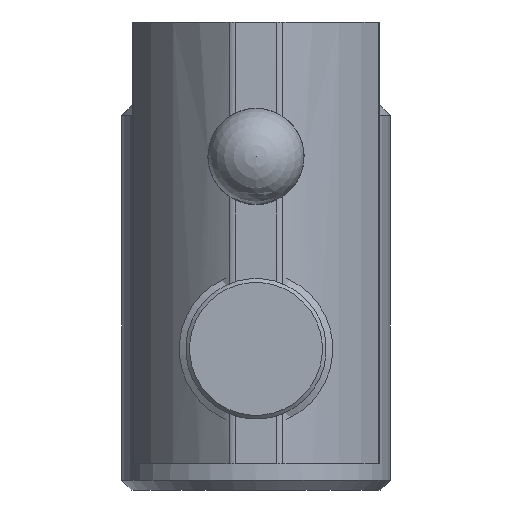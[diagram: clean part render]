
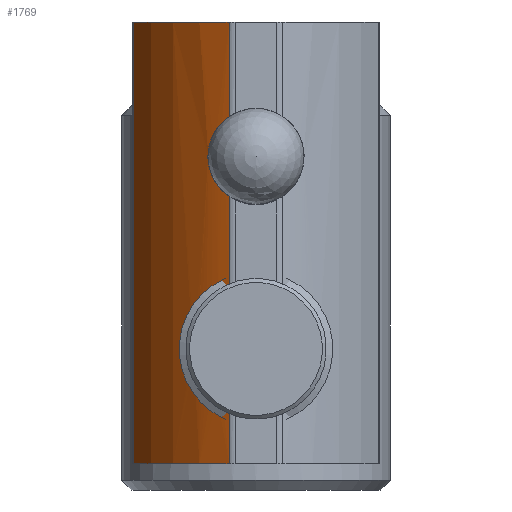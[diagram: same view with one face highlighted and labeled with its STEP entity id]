
A CAD part, front view. The second image highlights one B-rep face of the part: STEP entity #1769.
In plain terms, the highlighted cylindrical face has radius 13.5 mm (diameter 27 mm), a partial arc.
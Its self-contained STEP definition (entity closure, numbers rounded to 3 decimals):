
#63=LINE($,#4493,#114);
#76=LINE($,#4532,#127);
#79=LINE($,#4547,#130);
#84=LINE($,#4600,#135);
#114=VECTOR($,#2437,4.924);
#127=VECTOR($,#2476,2.971);
#130=VECTOR($,#2491,23.);
#135=VECTOR($,#2518,4.927);
#475=CYLINDRICAL_SURFACE($,#2008,13.5);
#594=FACE_OUTER_BOUND($,#803,.T.);
#803=EDGE_LOOP($,(#1616,#1617,#1618,#1619,#1620,#1621,#1622,#1623));
#821=B_SPLINE_CURVE_WITH_KNOTS($,3,(#4451,#4452,#4453,#4454,#4455,#4456,
#4457,#4458,#4459,#4460,#4461,#4462,#4463,#4464),.UNSPECIFIED.,.F.,.F.,
(4,2,2,2,2,2,4),(-1.471,-1.328,-1.201,
-1.073,-0.946,-0.819,-0.676),
 .UNSPECIFIED.);
#826=B_SPLINE_CURVE_WITH_KNOTS($,3,(#4561,#4562,#4563,#4564,#4565,#4566,
#4567,#4568,#4569,#4570,#4571,#4572,#4573,#4574,#4575),.UNSPECIFIED.,.F.,
 .F.,(4,2,2,3,2,2,4),(-0.252,-0.199,-0.1,
0.,0.095,0.19,0.252),.UNSPECIFIED.);
#933=CIRCLE($,#2004,13.5);
#934=CIRCLE($,#2009,13.5);
#1058=VERTEX_POINT($,#4443);
#1059=VERTEX_POINT($,#4450);
#1063=VERTEX_POINT($,#4482);
#1065=VERTEX_POINT($,#4491);
#1078=VERTEX_POINT($,#4531);
#1082=VERTEX_POINT($,#4543);
#1084=VERTEX_POINT($,#4546);
#1086=VERTEX_POINT($,#4560);
#1224=EDGE_CURVE($,#1058,#1059,#821,.T.);
#1231=EDGE_CURVE($,#1063,#1065,#63,.T.);
#1250=EDGE_CURVE($,#1078,#1059,#76,.T.);
#1257=EDGE_CURVE($,#1084,#1082,#79,.F.);
#1262=EDGE_CURVE($,#1063,#1086,#826,.T.);
#1268=EDGE_CURVE($,#1082,#1078,#933,.T.);
#1271=EDGE_CURVE($,#1058,#1086,#84,.T.);
#1273=EDGE_CURVE($,#1084,#1065,#934,.T.);
#1616=ORIENTED_EDGE($,*,*,#1224,.F.);
#1617=ORIENTED_EDGE($,*,*,#1271,.T.);
#1618=ORIENTED_EDGE($,*,*,#1262,.F.);
#1619=ORIENTED_EDGE($,*,*,#1231,.T.);
#1620=ORIENTED_EDGE($,*,*,#1273,.F.);
#1621=ORIENTED_EDGE($,*,*,#1257,.T.);
#1622=ORIENTED_EDGE($,*,*,#1268,.T.);
#1623=ORIENTED_EDGE($,*,*,#1250,.T.);
#1769=ADVANCED_FACE($,(#594),#475,.T.);
#2004=AXIS2_PLACEMENT_3D($,#4595,#2510,#2511);
#2008=AXIS2_PLACEMENT_3D($,#4603,#2522,#2523);
#2009=AXIS2_PLACEMENT_3D($,#4604,#2524,#2525);
#2437=DIRECTION($,(0.,1.,0.));
#2476=DIRECTION($,(0.,1.,0.));
#2491=DIRECTION($,(0.,1.,0.));
#2510=DIRECTION('center_axis',(0.,1.,0.));
#2511=DIRECTION('ref_axis',(1.,0.,0.));
#2518=DIRECTION($,(0.,1.,0.));
#2522=DIRECTION('center_axis',(0.,-1.,0.));
#2523=DIRECTION('ref_axis',(0.,0.,1.));
#2524=DIRECTION('center_axis',(0.,1.,0.));
#2525=DIRECTION('ref_axis',(1.,0.,0.));
#4443=CARTESIAN_POINT('',(1.402,-2.503,-7.401));
#4450=CARTESIAN_POINT('',(1.402,-8.529,-7.401));
#4451=CARTESIAN_POINT('Ctrl Pts',(1.402,-2.503,-7.401));
#4452=CARTESIAN_POINT('Ctrl Pts',(1.797,-2.687,-7.142));
#4453=CARTESIAN_POINT('Ctrl Pts',(2.151,-2.949,-6.878));
#4454=CARTESIAN_POINT('Ctrl Pts',(2.688,-3.527,-6.447));
#4455=CARTESIAN_POINT('Ctrl Pts',(2.92,-3.874,-6.244));
#4456=CARTESIAN_POINT('Ctrl Pts',(3.238,-4.655,-5.955));
#4457=CARTESIAN_POINT('Ctrl Pts',(3.324,-5.092,-5.871));
#4458=CARTESIAN_POINT('Ctrl Pts',(3.324,-5.941,-5.871));
#4459=CARTESIAN_POINT('Ctrl Pts',(3.238,-6.377,-5.955));
#4460=CARTESIAN_POINT('Ctrl Pts',(2.92,-7.159,-6.244));
#4461=CARTESIAN_POINT('Ctrl Pts',(2.688,-7.505,-6.447));
#4462=CARTESIAN_POINT('Ctrl Pts',(2.151,-8.084,-6.878));
#4463=CARTESIAN_POINT('Ctrl Pts',(1.797,-8.346,-7.142));
#4464=CARTESIAN_POINT('Ctrl Pts',(1.402,-8.529,-7.401));
#4482=CARTESIAN_POINT('',(1.402,6.576,-7.401));
#4491=CARTESIAN_POINT('',(1.402,11.5,-7.401));
#4493=CARTESIAN_POINT($,(1.402,-11.5,-7.401));
#4531=CARTESIAN_POINT('',(1.402,-11.5,-7.401));
#4532=CARTESIAN_POINT($,(1.402,-11.5,-7.401));
#4543=CARTESIAN_POINT('',(6.369,-11.5,-1.499));
#4546=CARTESIAN_POINT('',(6.369,11.5,-1.499));
#4547=CARTESIAN_POINT($,(6.369,-11.5,-1.499));
#4560=CARTESIAN_POINT('',(1.402,2.424,-7.401));
#4561=CARTESIAN_POINT('Ctrl Pts',(1.402,6.576,-7.401));
#4562=CARTESIAN_POINT('Ctrl Pts',(1.536,6.485,-7.313));
#4563=CARTESIAN_POINT('Ctrl Pts',(1.66,6.382,-7.228));
#4564=CARTESIAN_POINT('Ctrl Pts',(1.982,6.061,-7.002));
#4565=CARTESIAN_POINT('Ctrl Pts',(2.173,5.79,-6.856));
#4566=CARTESIAN_POINT('Ctrl Pts',(2.435,5.176,-6.652));
#4567=CARTESIAN_POINT('Ctrl Pts',(2.505,4.832,-6.594));
#4568=CARTESIAN_POINT('Ctrl Pts',(2.505,4.5,-6.594));
#4569=CARTESIAN_POINT('Ctrl Pts',(2.505,4.183,-6.594));
#4570=CARTESIAN_POINT('Ctrl Pts',(2.441,3.853,-6.646));
#4571=CARTESIAN_POINT('Ctrl Pts',(2.2,3.26,-6.836));
#4572=CARTESIAN_POINT('Ctrl Pts',(2.023,2.995,-6.971));
#4573=CARTESIAN_POINT('Ctrl Pts',(1.703,2.653,-7.199));
#4574=CARTESIAN_POINT('Ctrl Pts',(1.559,2.53,-7.298));
#4575=CARTESIAN_POINT('Ctrl Pts',(1.402,2.424,-7.401));
#4595=CARTESIAN_POINT('Origin',(-6.013,-11.5,3.88));
#4600=CARTESIAN_POINT($,(1.402,-11.5,-7.401));
#4603=CARTESIAN_POINT('Origin',(-6.013,-11.5,3.88));
#4604=CARTESIAN_POINT('Origin',(-6.013,11.5,3.88));
